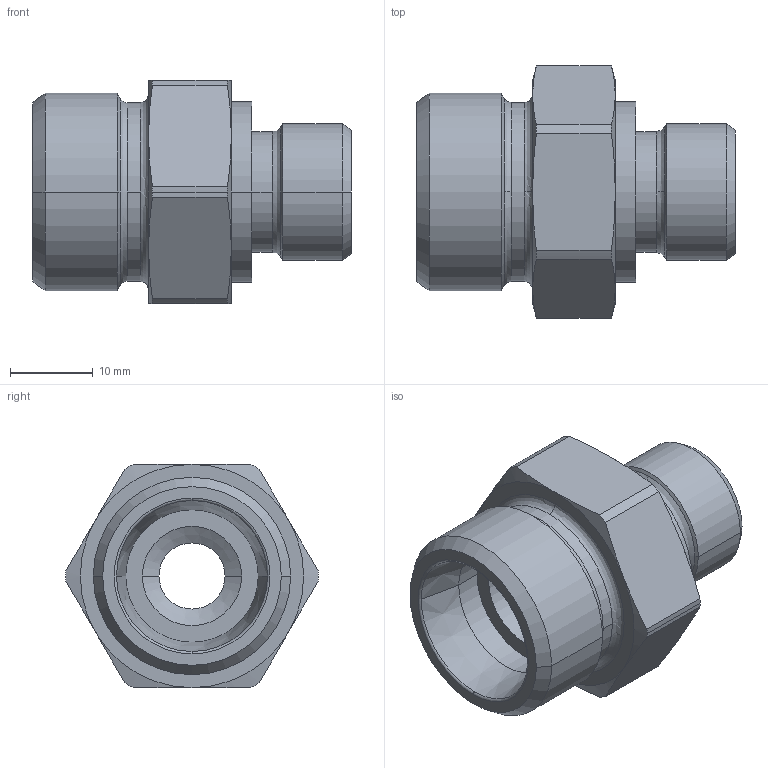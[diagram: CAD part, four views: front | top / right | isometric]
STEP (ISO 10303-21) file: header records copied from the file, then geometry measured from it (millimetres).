
FILE_DESCRIPTION((''),'2;1');
FILE_NAME('100537.stp','2007-10-30T14:34:51',(''),(''),'AutoCAD STEP 2000i','AutoCAD 2000i',', , ');
FILE_SCHEMA(('CONFIG_CONTROL_DESIGN'));
Length unit declared in the file: millimetre
Products named in the file (2): 100537.0; CHIAVE SMUSSATA#0
Assembly tree (1 placements, depth 2):
  100537.0
    CHIAVE SMUSSATA#0
Bounding box: 38.5 x 30.5 x 27 mm (x, y, z)
Volume: 11245.5 mm3; surface area: 5268.3 mm2
Topology: 1 solids, 1 shells, 79 faces, 193 edges, 121 vertices
Faces by surface type: cylinder 26, cone 26, plane 13, bspline 12, torus 2
Entity records: 2935 total; most frequent: CARTESIAN_POINT 971, DIRECTION 430, ORIENTED_EDGE 386, EDGE_CURVE 193, AXIS2_PLACEMENT_3D 192, CIRCLE 123, VERTEX_POINT 121, EDGE_LOOP 86
